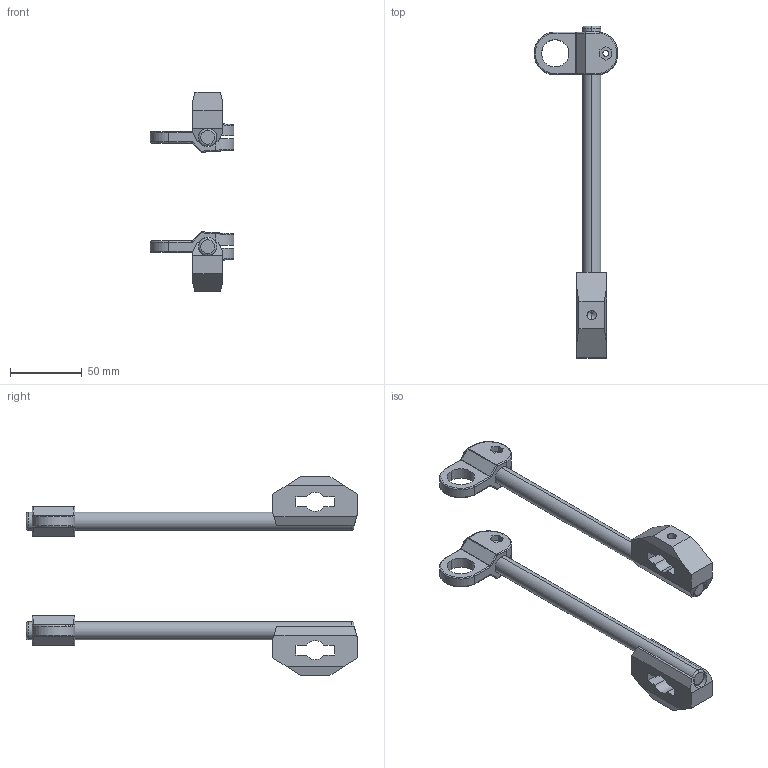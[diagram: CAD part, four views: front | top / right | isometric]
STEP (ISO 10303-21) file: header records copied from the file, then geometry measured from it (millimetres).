
FILE_DESCRIPTION((''),'2;1');
FILE_NAME('7352PM-AM_ASM','2023-03-23T',('jenni.wallner'),(''),'PRO/ENGINEER BY PARAMETRIC TECHNOLOGY CORPORATION, 2012420','PRO/ENGINEER BY PARAMETRIC TECHNOLOGY CORPORATION, 2012420','');
FILE_SCHEMA(('CONFIG_CONTROL_DESIGN'));
Length unit declared in the file: inch
Products named in the file (5): 532249; 807-1844; 807-1391; ASM0001_ASM; 7352PM-AM_ASM
Assembly tree (7 placements, depth 3):
  7352PM-AM_ASM
    ASM0001_ASM
      532249  x2
      807-1844  x2
      807-1391  x2
Bounding box: 58.37 x 231.33 x 139.45 mm (x, y, z)
Volume: 133189.9 mm3; surface area: 49016 mm2
Topology: 6 solids, 6 shells, 202 faces, 494 edges, 306 vertices
Faces by surface type: plane 86, cylinder 80, bspline 20, torus 12, cone 4
Entity records: 3901 total; most frequent: CARTESIAN_POINT 1416, ORIENTED_EDGE 490, DIRECTION 489, EDGE_CURVE 245, AXIS2_PLACEMENT_3D 175, VERTEX_POINT 153, VECTOR 139, LINE 139
